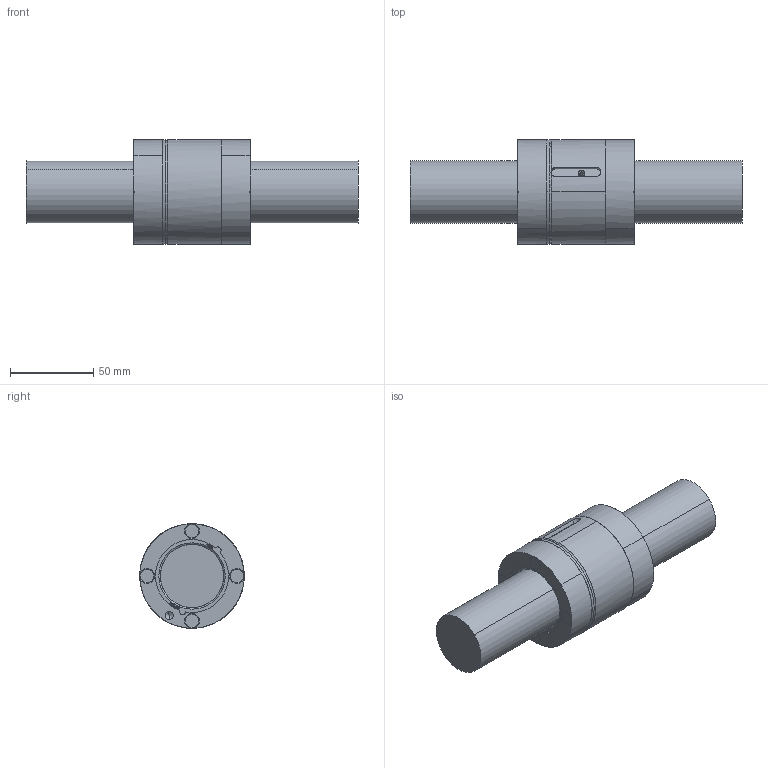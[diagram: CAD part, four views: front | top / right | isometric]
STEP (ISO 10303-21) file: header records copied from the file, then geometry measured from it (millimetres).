
FILE_DESCRIPTION(('Creo Elements/Direct Modeling STEP Export'),'2;1');
FILE_NAME('HSB-KGT-M-4010RH-1g.stp','2026-07-03T11:44:34',(''),(''),'Creo Elements/Direct Modeling STEP processor for AP214 (Solid Model)','Creo Elements/Direct Modeling 20.1D 10-Oct-2020 (C) Parametric Technology GmbH','');
FILE_SCHEMA(('AUTOMOTIVE_DESIGN { 1 0 10303 214 1 1 1 1 }'));
Length unit declared in the file: millimetre
Products named in the file (3): HSB-KGM-M-4010RH-1g_30186; KGS-4010RH-1g-T7_28232; HSB-KGT-M-4010RH-1g
Assembly tree (2 placements, depth 2):
  HSB-KGT-M-4010RH-1g
    KGS-4010RH-1g-T7_28232
    HSB-KGM-M-4010RH-1g_30186
Bounding box: 200 x 62.99 x 63 mm (x, y, z)
Volume: 362676 mm3; surface area: 53069 mm2
Topology: 2 solids, 2 shells, 909 faces, 2623 edges, 1744 vertices
Faces by surface type: plane 835, cylinder 46, cone 26, torus 2
Entity records: 29977 total; most frequent: CARTESIAN_POINT 6115, ORIENTED_EDGE 5238, DIRECTION 4418, EDGE_CURVE 2619, VECTOR 2454, LINE 2454, VERTEX_POINT 1744, AXIS2_PLACEMENT_3D 982
